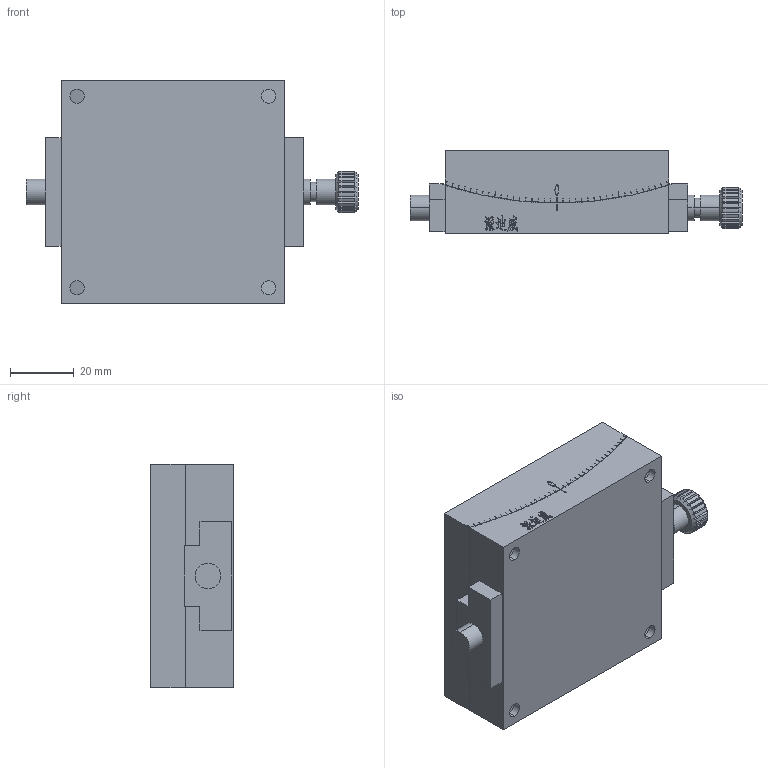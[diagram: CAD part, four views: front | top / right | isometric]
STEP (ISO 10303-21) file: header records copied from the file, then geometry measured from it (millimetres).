
FILE_DESCRIPTION (( 'STEP AP214' ), '1' );
FILE_NAME ('PT-SD396.STEP', '2022-11-06T07:43:51', ( '' ), ( '' ), 'SwSTEP 2.0', 'SolidWorks 2017', '' );
FILE_SCHEMA (( 'AUTOMOTIVE_DESIGN' ));
Length unit declared in the file: millimetre
Products named in the file (3): PT-SD350-3; PT-SD396; PT-SD350-4
Assembly tree (2 placements, depth 2):
  PT-SD396
    PT-SD350-3
    PT-SD350-4
Bounding box: 104 x 26 x 70 mm (x, y, z)
Volume: 130794.4 mm3; surface area: 31664.2 mm2
Topology: 2 solids, 2 shells, 684 faces, 1923 edges, 1259 vertices
Faces by surface type: plane 478, bspline 92, cylinder 84, cone 30
Entity records: 26533 total; most frequent: CARTESIAN_POINT 9205, ORIENTED_EDGE 3794, DIRECTION 3051, EDGE_CURVE 1897, LINE 1361, VECTOR 1361, VERTEX_POINT 1259, AXIS2_PLACEMENT_3D 845
